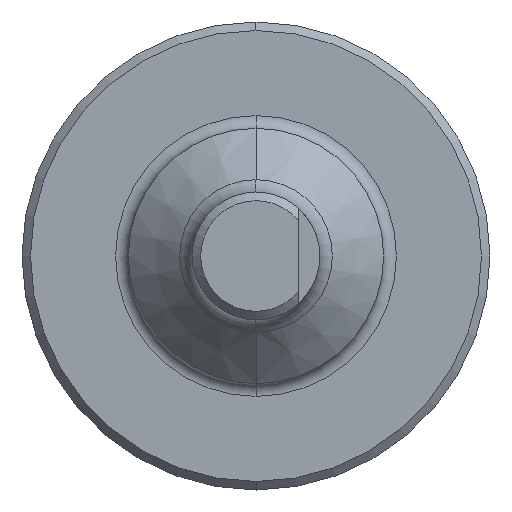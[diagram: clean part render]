
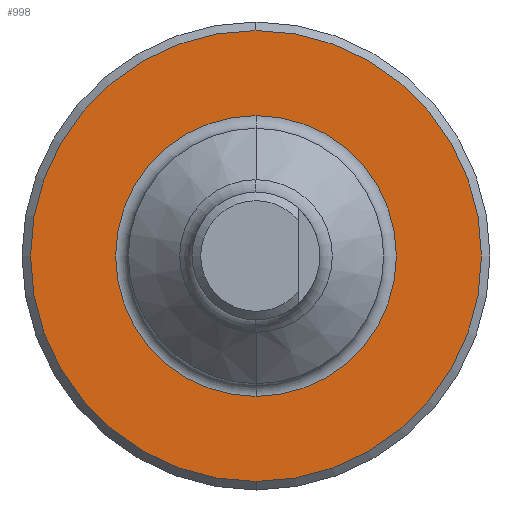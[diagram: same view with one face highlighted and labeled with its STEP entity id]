
A CAD part, front view. The second image highlights one B-rep face of the part: STEP entity #998.
In plain terms, the highlighted planar face has unit normal (0, -1, 0).
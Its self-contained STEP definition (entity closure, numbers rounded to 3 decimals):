
#242=CARTESIAN_POINT('',(0.,38.3,0.));
#243=DIRECTION('',(0.,-1.,0.));
#244=DIRECTION('',(0.,0.,1.));
#245=AXIS2_PLACEMENT_3D('',#242,#243,#244);
#247=CARTESIAN_POINT('',(0.,38.3,0.));
#248=DIRECTION('',(0.,-1.,0.));
#249=DIRECTION('',(0.,0.,-1.));
#250=AXIS2_PLACEMENT_3D('',#247,#248,#249);
#252=CARTESIAN_POINT('',(0.,38.3,0.));
#253=DIRECTION('',(0.,1.,0.));
#254=DIRECTION('',(0.,0.,-1.));
#255=AXIS2_PLACEMENT_3D('',#252,#253,#254);
#257=CARTESIAN_POINT('',(0.,38.3,0.));
#258=DIRECTION('',(0.,1.,0.));
#259=DIRECTION('',(0.,0.,1.));
#260=AXIS2_PLACEMENT_3D('',#257,#258,#259);
#594=CARTESIAN_POINT('',(0.,38.3,5.3));
#595=CARTESIAN_POINT('',(0.,38.3,-5.3));
#596=VERTEX_POINT('',#594);
#597=VERTEX_POINT('',#595);
#598=CARTESIAN_POINT('',(0.,38.3,-3.3));
#599=CARTESIAN_POINT('',(0.,38.3,3.3));
#600=VERTEX_POINT('',#598);
#601=VERTEX_POINT('',#599);
#982=CARTESIAN_POINT('',(0.,38.3,0.));
#983=DIRECTION('',(0.,1.,0.));
#984=DIRECTION('',(0.,0.,1.));
#985=AXIS2_PLACEMENT_3D('',#982,#983,#984);
#986=PLANE('',#985);
#987=ORIENTED_EDGE('',*,*,#972,.F.);
#989=ORIENTED_EDGE('',*,*,#988,.F.);
#990=EDGE_LOOP('',(#987,#989));
#991=FACE_OUTER_BOUND('',#990,.F.);
#993=ORIENTED_EDGE('',*,*,#992,.F.);
#995=ORIENTED_EDGE('',*,*,#994,.F.);
#996=EDGE_LOOP('',(#993,#995));
#997=FACE_BOUND('',#996,.F.);
#246=CIRCLE('',#245,5.3);
#251=CIRCLE('',#250,5.3);
#256=CIRCLE('',#255,3.3);
#261=CIRCLE('',#260,3.3);
#972=EDGE_CURVE('',#596,#597,#246,.T.);
#988=EDGE_CURVE('',#597,#596,#251,.T.);
#992=EDGE_CURVE('',#600,#601,#256,.T.);
#994=EDGE_CURVE('',#601,#600,#261,.T.);
#998=ADVANCED_FACE('',(#991,#997),#986,.F.);
